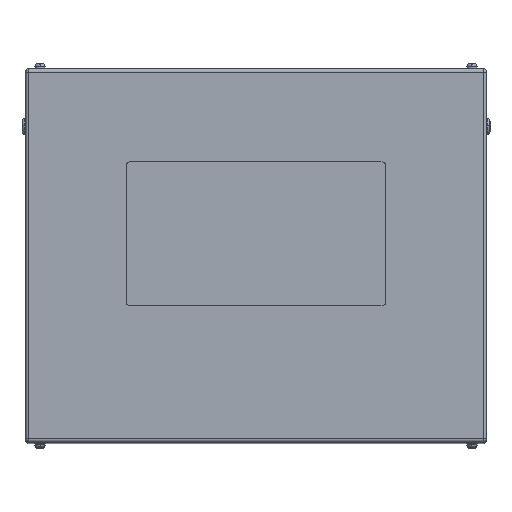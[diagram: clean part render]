
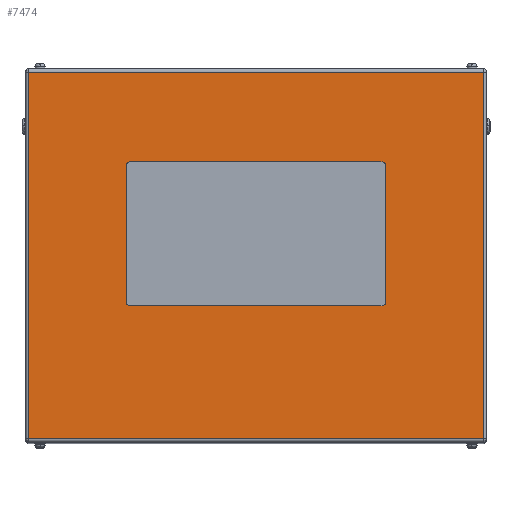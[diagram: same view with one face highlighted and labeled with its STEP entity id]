
A CAD part, top view. The second image highlights one B-rep face of the part: STEP entity #7474.
In plain terms, the highlighted planar face has unit normal (0, 0, 1).
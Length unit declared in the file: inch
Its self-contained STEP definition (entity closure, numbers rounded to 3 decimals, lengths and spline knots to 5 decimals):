
#9 = CARTESIAN_POINT ( 'NONE',  ( 15.8, -12.734, 24. ) ) ;
#24 = VERTEX_POINT ( 'NONE', #18072 ) ;
#335 = DIRECTION ( 'NONE',  ( 0., 0., 1. ) ) ;
#471 = PLANE ( 'NONE',  #13775 ) ;
#491 = CARTESIAN_POINT ( 'NONE',  ( -9., 6.25, 24. ) ) ;
#697 = VERTEX_POINT ( 'NONE', #5045 ) ;
#729 = CARTESIAN_POINT ( 'NONE',  ( -15.8, -12.734, 24. ) ) ;
#731 = CARTESIAN_POINT ( 'NONE',  ( -15.8, 13., 24. ) ) ;
#767 = DIRECTION ( 'NONE',  ( 0., 0., -1. ) ) ;
#1113 = VECTOR ( 'NONE', #2217, 39.37008 ) ;
#1128 = EDGE_CURVE ( 'NONE', #24, #19210, #2515, .T. ) ;
#1668 = CIRCLE ( 'NONE', #6477, 0.25 ) ;
#1676 = ORIENTED_EDGE ( 'NONE', *, *, #1128, .F. ) ;
#1688 = AXIS2_PLACEMENT_3D ( 'NONE', #13837, #18431, #18523 ) ;
#1920 = VECTOR ( 'NONE', #4465, 39.37008 ) ;
#1943 = LINE ( 'NONE', #3360, #10344 ) ;
#2162 = FACE_BOUND ( 'NONE', #19049, .T. ) ;
#2217 = DIRECTION ( 'NONE',  ( -1., 0., 0. ) ) ;
#2230 = VERTEX_POINT ( 'NONE', #10199 ) ;
#2515 = LINE ( 'NONE', #6832, #1113 ) ;
#2640 = VECTOR ( 'NONE', #12333, 39.37008 ) ;
#2847 = CARTESIAN_POINT ( 'NONE',  ( 15.8, -12.734, 24. ) ) ;
#3095 = ORIENTED_EDGE ( 'NONE', *, *, #15659, .T. ) ;
#3360 = CARTESIAN_POINT ( 'NONE',  ( 16., 12.734, 24. ) ) ;
#3389 = DIRECTION ( 'NONE',  ( 1., 0., 0. ) ) ;
#3487 = EDGE_CURVE ( 'NONE', #697, #7043, #1668, .T. ) ;
#3610 = VERTEX_POINT ( 'NONE', #15336 ) ;
#4013 = ORIENTED_EDGE ( 'NONE', *, *, #3487, .F. ) ;
#4144 = EDGE_CURVE ( 'NONE', #18519, #9284, #1943, .T. ) ;
#4203 = EDGE_CURVE ( 'NONE', #6615, #18519, #9397, .T. ) ;
#4306 = VECTOR ( 'NONE', #15634, 39.37008 ) ;
#4395 = DIRECTION ( 'NONE',  ( 0., 0., 1. ) ) ;
#4465 = DIRECTION ( 'NONE',  ( 0., -1., 0. ) ) ;
#4621 = DIRECTION ( 'NONE',  ( -1., 0., 0. ) ) ;
#4816 = CARTESIAN_POINT ( 'NONE',  ( 15.8, 13., 24. ) ) ;
#4818 = AXIS2_PLACEMENT_3D ( 'NONE', #16891, #9574, #3389 ) ;
#5045 = CARTESIAN_POINT ( 'NONE',  ( 8.75, -3.5, 24. ) ) ;
#6345 = LINE ( 'NONE', #18327, #8240 ) ;
#6444 = ORIENTED_EDGE ( 'NONE', *, *, #4144, .T. ) ;
#6477 = AXIS2_PLACEMENT_3D ( 'NONE', #12351, #335, #12437 ) ;
#6615 = VERTEX_POINT ( 'NONE', #2847 ) ;
#6768 = DIRECTION ( 'NONE',  ( -1., 0., 0. ) ) ;
#6832 = CARTESIAN_POINT ( 'NONE',  ( -8.75, 6.5, 24. ) ) ;
#6917 = ORIENTED_EDGE ( 'NONE', *, *, #15680, .F. ) ;
#7043 = VERTEX_POINT ( 'NONE', #7712 ) ;
#7474 = ADVANCED_FACE ( 'NONE', ( #2162, #14490 ), #471, .F. ) ;
#7640 = LINE ( 'NONE', #491, #1920 ) ;
#7712 = CARTESIAN_POINT ( 'NONE',  ( 9., -3.25, 24. ) ) ;
#8240 = VECTOR ( 'NONE', #12244, 39.37008 ) ;
#8465 = VERTEX_POINT ( 'NONE', #729 ) ;
#9110 = ORIENTED_EDGE ( 'NONE', *, *, #19572, .F. ) ;
#9160 = CARTESIAN_POINT ( 'NONE',  ( -15.8, 12.734, 24. ) ) ;
#9274 = LINE ( 'NONE', #731, #18379 ) ;
#9284 = VERTEX_POINT ( 'NONE', #9160 ) ;
#9314 = VERTEX_POINT ( 'NONE', #12148 ) ;
#9397 = LINE ( 'NONE', #4816, #16840 ) ;
#9403 = LINE ( 'NONE', #9486, #4306 ) ;
#9486 = CARTESIAN_POINT ( 'NONE',  ( -8.75, -3.5, 24. ) ) ;
#9546 = CARTESIAN_POINT ( 'NONE',  ( -8.75, 6.5, 24. ) ) ;
#9574 = DIRECTION ( 'NONE',  ( 0., 0., 1. ) ) ;
#9817 = VERTEX_POINT ( 'NONE', #15256 ) ;
#9857 = ORIENTED_EDGE ( 'NONE', *, *, #15522, .T. ) ;
#10199 = CARTESIAN_POINT ( 'NONE',  ( -8.75, -3.5, 24. ) ) ;
#10344 = VECTOR ( 'NONE', #4621, 39.37008 ) ;
#10607 = CIRCLE ( 'NONE', #1688, 0.25 ) ;
#11342 = EDGE_CURVE ( 'NONE', #7043, #3610, #6345, .T. ) ;
#11392 = ORIENTED_EDGE ( 'NONE', *, *, #13844, .F. ) ;
#12148 = CARTESIAN_POINT ( 'NONE',  ( -9., -3.25, 24. ) ) ;
#12244 = DIRECTION ( 'NONE',  ( 0., 1., 0. ) ) ;
#12333 = DIRECTION ( 'NONE',  ( 1., 0., 0. ) ) ;
#12351 = CARTESIAN_POINT ( 'NONE',  ( 8.75, -3.25, 24. ) ) ;
#12437 = DIRECTION ( 'NONE',  ( 1., 0., 0. ) ) ;
#12573 = ORIENTED_EDGE ( 'NONE', *, *, #4203, .T. ) ;
#12579 = CARTESIAN_POINT ( 'NONE',  ( 16., 13., 24. ) ) ;
#13153 = CARTESIAN_POINT ( 'NONE',  ( -8.75, -3.25, 24. ) ) ;
#13159 = ORIENTED_EDGE ( 'NONE', *, *, #18833, .F. ) ;
#13717 = CIRCLE ( 'NONE', #4818, 0.25 ) ;
#13767 = CIRCLE ( 'NONE', #17700, 0.25 ) ;
#13775 = AXIS2_PLACEMENT_3D ( 'NONE', #12579, #767, #6768 ) ;
#13837 = CARTESIAN_POINT ( 'NONE',  ( 8.75, 6.25, 24. ) ) ;
#13844 = EDGE_CURVE ( 'NONE', #9817, #9314, #7640, .T. ) ;
#14003 = ORIENTED_EDGE ( 'NONE', *, *, #16107, .F. ) ;
#14126 = CARTESIAN_POINT ( 'NONE',  ( 15.8, 12.734, 24. ) ) ;
#14490 = FACE_OUTER_BOUND ( 'NONE', #19527, .T. ) ;
#15256 = CARTESIAN_POINT ( 'NONE',  ( -9., 6.25, 24. ) ) ;
#15336 = CARTESIAN_POINT ( 'NONE',  ( 9., 6.25, 24. ) ) ;
#15522 = EDGE_CURVE ( 'NONE', #9284, #8465, #9274, .T. ) ;
#15634 = DIRECTION ( 'NONE',  ( 1., 0., 0. ) ) ;
#15659 = EDGE_CURVE ( 'NONE', #8465, #6615, #16609, .T. ) ;
#15680 = EDGE_CURVE ( 'NONE', #3610, #24, #10607, .T. ) ;
#16107 = EDGE_CURVE ( 'NONE', #2230, #697, #9403, .T. ) ;
#16394 = ORIENTED_EDGE ( 'NONE', *, *, #11342, .F. ) ;
#16609 = LINE ( 'NONE', #9, #2640 ) ;
#16840 = VECTOR ( 'NONE', #17169, 39.37008 ) ;
#16863 = DIRECTION ( 'NONE',  ( 0., -1., 0. ) ) ;
#16891 = CARTESIAN_POINT ( 'NONE',  ( -8.75, 6.25, 24. ) ) ;
#17169 = DIRECTION ( 'NONE',  ( 0., 1., 0. ) ) ;
#17700 = AXIS2_PLACEMENT_3D ( 'NONE', #13153, #4395, #19356 ) ;
#18072 = CARTESIAN_POINT ( 'NONE',  ( 8.75, 6.5, 24. ) ) ;
#18327 = CARTESIAN_POINT ( 'NONE',  ( 9., 6.25, 24. ) ) ;
#18379 = VECTOR ( 'NONE', #16863, 39.37008 ) ;
#18431 = DIRECTION ( 'NONE',  ( 0., 0., 1. ) ) ;
#18519 = VERTEX_POINT ( 'NONE', #14126 ) ;
#18523 = DIRECTION ( 'NONE',  ( -1., 0., 0. ) ) ;
#18833 = EDGE_CURVE ( 'NONE', #19210, #9817, #13717, .T. ) ;
#19049 = EDGE_LOOP ( 'NONE', ( #14003, #9110, #11392, #13159, #1676, #6917, #16394, #4013 ) ) ;
#19210 = VERTEX_POINT ( 'NONE', #9546 ) ;
#19356 = DIRECTION ( 'NONE',  ( 1., 0., 0. ) ) ;
#19527 = EDGE_LOOP ( 'NONE', ( #9857, #3095, #12573, #6444 ) ) ;
#19572 = EDGE_CURVE ( 'NONE', #9314, #2230, #13767, .T. ) ;
